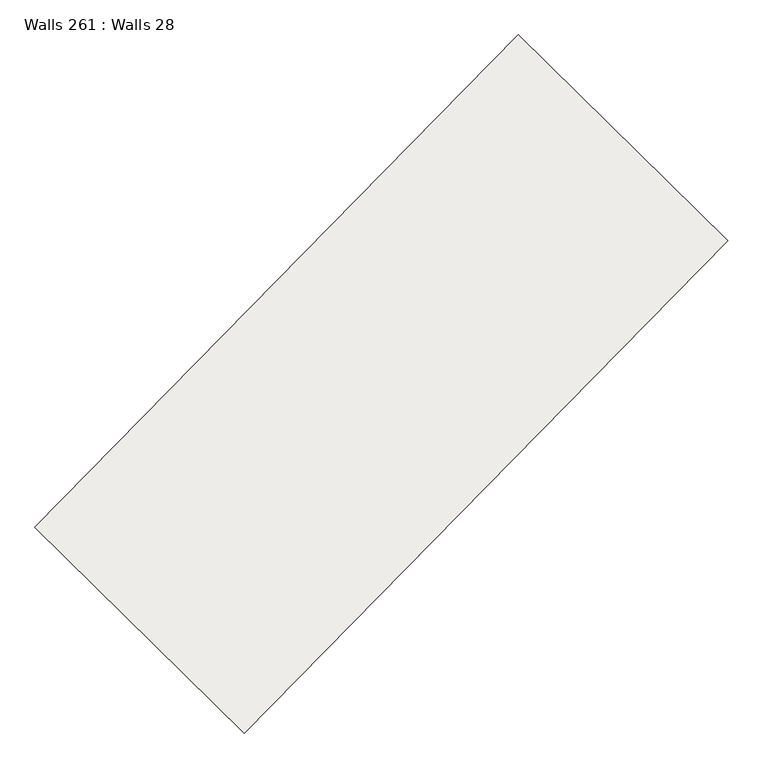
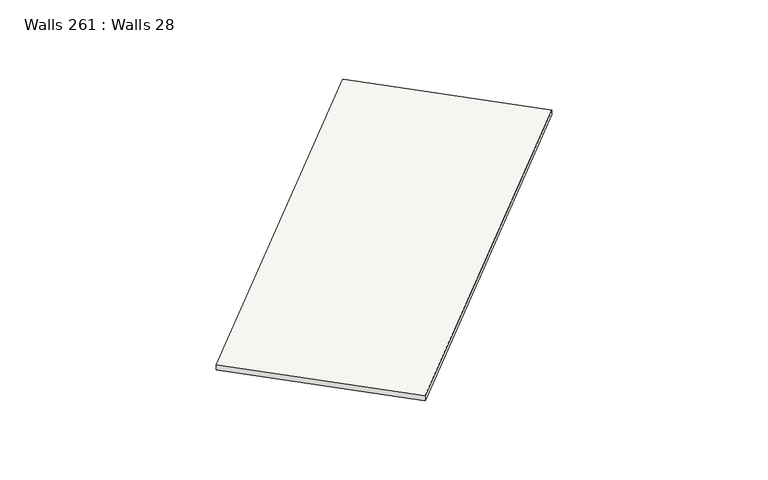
"""IFC4 building model written with IfcOpenShell, lengths in millimetres: slab geometry, Walls 261 : Walls 28."""

from ifc_helpers import new_model, si_unit, frame, origin, place, context, project, spatial, polyline, outline, extrude, source, transform, mapped, element, save


def walls_261_walls_28_0d2c1e46(model_context):
    return source(origin(), model_context, "Body", "SweptSolid", [
        extrude(outline(polyline([(-50.0, 0.0), (50.0, 0.0), (-40.0, -8700.0000004), (-140.0, -8700.0000004), (-50.0, 0.0)])), frame((-213228.4854796, -376625.0285908, 634950.0), z_axis=(-0.7136987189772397, 0.7004528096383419, 0.0), x_axis=(0.0, 0.0, 1.0)), (0.0, 0.0, 1.0), 3700.0),
    ])


if __name__ == "__main__":
    model = new_model("IFC4")
    model_context = context("Model", 3, world=origin())
    ifc_project = project(units=[si_unit("LENGTHUNIT", "METRE", prefix="MILLI")], contexts=[model_context])
    site = spatial("IfcSite", under=ifc_project)
    building = spatial("IfcBuilding", under=site)
    placement = place(None, origin())
    walls_261_walls_28_shape = walls_261_walls_28_0d2c1e46(model_context)
    element("IfcSlab", 1, ObjectType="Walls 261 : Walls 28", at=placement, inside=building, context=model_context, shape_type="MappedRepresentation", body=[
        mapped(walls_261_walls_28_shape, transform((0.0, 0.0, 0.0), x_axis=(1.0, 0.0, 0.0), y_axis=(0.0, 1.0, 0.0), z_axis=(0.0, 0.0, 1.0))),
    ])
    save(model, "model.ifc")
